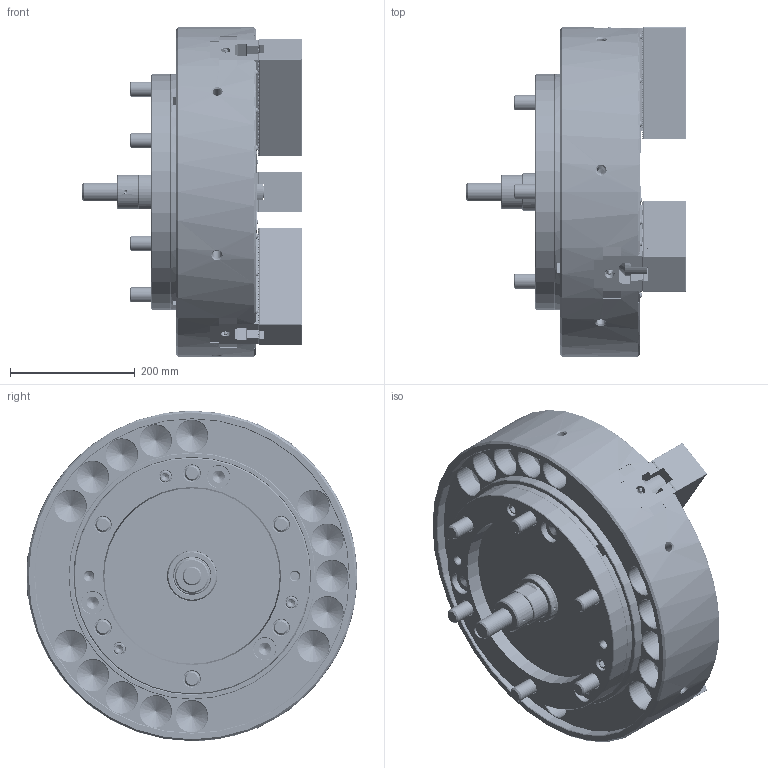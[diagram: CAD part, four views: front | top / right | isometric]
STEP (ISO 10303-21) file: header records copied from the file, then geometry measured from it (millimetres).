
FILE_DESCRIPTION (( 'STEP AP214' ), '1' );
FILE_NAME ('DT1_NV21C15_OUTSIDE_VIEW_UC.STEP', '2026-03-24T04:31:49', ( '' ), ( '' ), 'SwSTEP 2.0', 'SolidWorks 2022', '' );
FILE_SCHEMA (( 'AUTOMOTIVE_DESIGN' ));
Length unit declared in the file: millimetre
Products named in the file (19): DT1_NV21C15_BP^DT1_NV21C1500; DT1_NV21C15_CAP^DT1_NV21C1500; DT1_NV21C15_DN^DT1_NV21C1500; DT1_NV21C15_TNUT^DT1_NV21C1500; DT1_NV21C15_M6x12^DT1_NV21C1500; DT1_NV21C15_S24^DT1_NV21C1500_円筒用; DT1_NV21C15_SOFTJAW^DT1_NV21C1500; Copy of 0030112055^DT1_NV21C1500; Copy of 61P321208^DT1_NV21C1500; DT1_NV21C15_OUTSIDE_VIEW_UC; DT1_NV21C15_S38^DT1_NV21C1500_円筒用; DT1_NV21C15_M24x170^DT1_NV21C1500; DT1_NV21C15_M20x60^DT1_NV21C1500; DT1_NV21C15_COVERFOOTER^DT1_NV21C1500; DT1_NV21C15_ORING^DT1_NV21C1500; DT1_NV21C15_BASE^DT1_NV21C1500; DT1_NV21C15_P80^DT1_NV21C1500_円筒用; DT1_NV21C15_DRAWSCREW^DT1_NV21C1500; DT1_NV21C15_COVER^DT1_NV21C1500
Assembly tree (49 placements, depth 2):
  DT1_NV21C15_OUTSIDE_VIEW_UC
    DT1_NV21C15_SOFTJAW^DT1_NV21C1500  x3
    DT1_NV21C15_TNUT^DT1_NV21C1500  x6
    DT1_NV21C15_COVER^DT1_NV21C1500
    DT1_NV21C15_DRAWSCREW^DT1_NV21C1500
    Copy of 61P321208^DT1_NV21C1500
    DT1_NV21C15_COVERFOOTER^DT1_NV21C1500
    DT1_NV21C15_DN^DT1_NV21C1500
    DT1_NV21C15_BP^DT1_NV21C1500
    DT1_NV21C15_BASE^DT1_NV21C1500
    DT1_NV21C15_M6x12^DT1_NV21C1500  x6
    Copy of 0030112055^DT1_NV21C1500  x3
    DT1_NV21C15_M20x60^DT1_NV21C1500  x6
    DT1_NV21C15_M24x170^DT1_NV21C1500  x6
    DT1_NV21C15_S24^DT1_NV21C1500_円筒用
    DT1_NV21C15_S38^DT1_NV21C1500_円筒用
    DT1_NV21C15_P80^DT1_NV21C1500_円筒用
    DT1_NV21C15_CAP^DT1_NV21C1500  x6
    DT1_NV21C15_ORING^DT1_NV21C1500  x3
Bounding box: 352 x 530 x 530 mm (x, y, z)
Volume: 30053389.4 mm3; surface area: 2116826.6 mm2
Topology: 49 solids, 103 shells, 9768 faces, 27007 edges, 17555 vertices
Faces by surface type: plane 5701, cylinder 1925, bspline 1031, cone 963, torus 142, sphere 6
Entity records: 277620 total; most frequent: CARTESIAN_POINT 88722, ORIENTED_EDGE 42174, DIRECTION 33962, EDGE_CURVE 21087, VECTOR 14724, LINE 14724, VERTEX_POINT 13809, AXIS2_PLACEMENT_3D 9619
